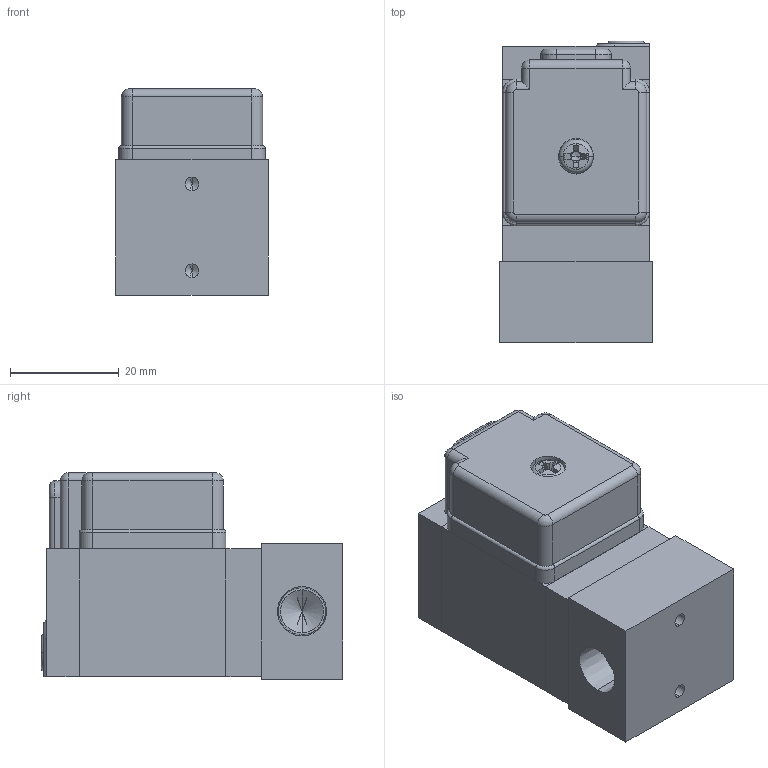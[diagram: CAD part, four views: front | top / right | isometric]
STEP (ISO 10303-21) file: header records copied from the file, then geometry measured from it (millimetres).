
FILE_DESCRIPTION (( 'STEP AP203' ), '1' );
FILE_NAME ('SS231-01-#G#.STEP', '2016-08-01T03:11:51', ( '' ), ( '' ), 'SwSTEP 2.0', 'SolidWorks 2014', '' );
FILE_SCHEMA (( 'CONFIG_CONTROL_DESIGN' ));
Length unit declared in the file: millimetre
Products named in the file (10): PC6-M4; G2; PCS2406-9; PC6-M3; SS231-1; SS231-01-#G#; PCS2406-8; PCS2406-7; PCS2406-3
Assembly tree (10 placements, depth 3):
  SS231-01-#G#
    (unnamed)
    SS231-1
    G2
      PCS2406-7
      PCS2406-3
      PC6-M4
      PCS2406-8
      PCS2406-9
      PC6-M3  x2
Bounding box: 28 x 55.5 x 38 mm (x, y, z)
Volume: 45112.8 mm3; surface area: 15857.1 mm2
Topology: 9 solids, 9 shells, 246 faces, 579 edges, 349 vertices
Faces by surface type: plane 115, cylinder 56, cone 41, torus 24, sphere 10
Entity records: 7067 total; most frequent: DIRECTION 1137, CARTESIAN_POINT 1059, ORIENTED_EDGE 962, EDGE_CURVE 481, AXIS2_PLACEMENT_3D 448, VERTEX_POINT 298, VECTOR 241, LINE 241
